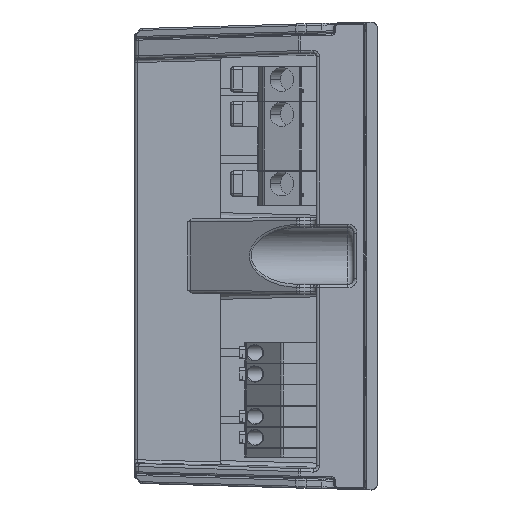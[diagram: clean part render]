
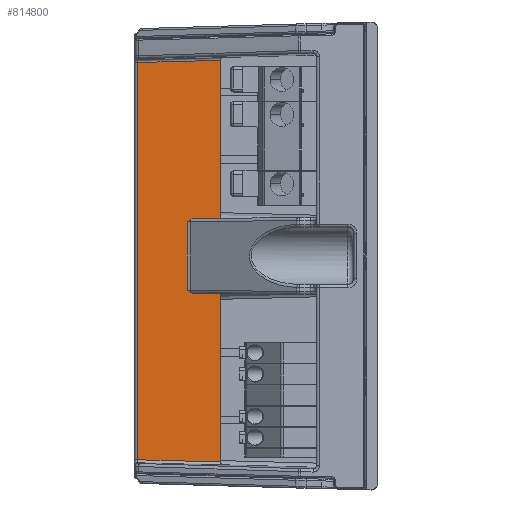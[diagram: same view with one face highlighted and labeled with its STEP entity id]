
A CAD part, left-side view. The second image highlights one B-rep face of the part: STEP entity #814800.
In plain terms, the highlighted planar face has unit normal (-1, 0, 0).
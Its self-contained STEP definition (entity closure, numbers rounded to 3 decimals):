
#810200=CARTESIAN_POINT('',(15.543,29.995,-31.177));
#810210=VERTEX_POINT('',#810200);
#810240=CARTESIAN_POINT('',(15.543,25.7,
-31.177));
#810250=DIRECTION('',(0.,1.,
0.));
#810260=VECTOR('',#810250,4.295);
#810270=LINE('',#810240,#810260);
#810280=CARTESIAN_POINT('',(15.543,25.7,
-31.177));
#810290=VERTEX_POINT('',#810280);
#810300=EDGE_CURVE('',#810290,#810210,#810270,.T.);
#810750=CARTESIAN_POINT('',(15.543,25.7,
-5.011));
#810760=DIRECTION('',(0.,0.,
-1.));
#810770=VECTOR('',#810760,26.166);
#810780=LINE('',#810750,#810770);
#810790=CARTESIAN_POINT('',(15.543,25.7,
-5.011));
#810800=VERTEX_POINT('',#810790);
#810810=EDGE_CURVE('',#810800,#810290,#810780,.T.);
#811270=CARTESIAN_POINT('',(15.543,39.397,-5.371
));
#811280=DIRECTION('',(0.,-1.,
0.026));
#811290=VECTOR('',#811280,13.701);
#811300=LINE('',#811270,#811290);
#811310=CARTESIAN_POINT('',(15.543,39.397,-5.371
));
#811320=VERTEX_POINT('',#811310);
#811330=EDGE_CURVE('',#811320,#810800,#811300,.T.);
#813750=CARTESIAN_POINT('',(15.543,39.397,-71.035
));
#813760=VERTEX_POINT('',#813750);
#813860=CARTESIAN_POINT('',(15.543,39.397,-5.371
));
#813870=DIRECTION('',(0.,0.,-1.));
#813880=VECTOR('',#813870,65.663);
#813890=LINE('',#813860,#813880);
#813900=EDGE_CURVE('',#811320,#813760,#813890,.T.);
#813950=CARTESIAN_POINT('',(15.543,39.897,-2.053));
#813960=DIRECTION('',(1.,0.,0.));
#813970=DIRECTION('',(0.,0.,-1.));
#813980=AXIS2_PLACEMENT_3D('',#813950,#813960,#813970);
#813990=PLANE('',#813980);
#814000=CARTESIAN_POINT('',(15.543,25.7,
-71.395));
#814010=DIRECTION('',(0.,1.,
0.026));
#814020=VECTOR('',#814010,13.701);
#814030=LINE('',#814000,#814020);
#814040=CARTESIAN_POINT('',(15.543,25.7,
-71.395));
#814050=VERTEX_POINT('',#814040);
#814060=EDGE_CURVE('',#814050,#813760,#814030,.T.);
#814070=ORIENTED_EDGE('',*,*,#814060,.F.);
#814080=ORIENTED_EDGE('',*,*,#813900,.T.);
#814090=ORIENTED_EDGE('',*,*,#811330,.F.);
#814100=ORIENTED_EDGE('',*,*,#810810,.F.);
#814110=ORIENTED_EDGE('',*,*,#810300,.F.);
#814120=CARTESIAN_POINT('',(15.543,29.995,-31.177));
#814130=CARTESIAN_POINT('',(15.543,30.072,-31.177));
#814140=CARTESIAN_POINT('',(15.543,30.219,
-31.186));
#814150=CARTESIAN_POINT('',(15.543,30.421,
-31.226));
#814160=CARTESIAN_POINT('',(15.543,30.543,-31.27
));
#814170=CARTESIAN_POINT('',(15.543,30.601,-31.296
));
#814180=B_SPLINE_CURVE_WITH_KNOTS('',3,(#814120,#814130,#814140,#814150,
#814160,#814170),.UNSPECIFIED.,.F.,.F.,(4,1,1,4),(0.,0.333,
0.667,1.),.UNSPECIFIED.);
#814190=CARTESIAN_POINT('',(15.543,30.601,
-31.296));
#814200=VERTEX_POINT('',#814190);
#814210=EDGE_CURVE('',#810210,#814200,#814180,.T.);
#814220=ORIENTED_EDGE('',*,*,#814210,.F.);
#814230=CARTESIAN_POINT('',(15.543,31.232,-31.686)
);
#814240=CARTESIAN_POINT('',(15.543,31.16,
-31.635));
#814250=CARTESIAN_POINT('',(15.543,31.019,
-31.535));
#814260=CARTESIAN_POINT('',(15.543,30.809,
-31.4));
#814270=CARTESIAN_POINT('',(15.543,30.671,
-31.327));
#814280=CARTESIAN_POINT('',(15.543,30.601,-31.296
));
#814290=B_SPLINE_CURVE_WITH_KNOTS('',3,(#814230,#814240,#814250,#814260,
#814270,#814280),.UNSPECIFIED.,.F.,.F.,(4,1,1,4),(0.,0.333,
0.667,1.),.UNSPECIFIED.);
#814300=CARTESIAN_POINT('',(15.543,31.232,-31.686)
);
#814310=VERTEX_POINT('',#814300);
#814320=EDGE_CURVE('',#814310,#814200,#814290,.T.);
#814330=ORIENTED_EDGE('',*,*,#814320,.T.);
#814340=CARTESIAN_POINT('',(15.543,31.232,
-43.021));
#814350=DIRECTION('',(0.,0.,
1.));
#814360=VECTOR('',#814350,11.335);
#814370=LINE('',#814340,#814360);
#814380=CARTESIAN_POINT('',(15.543,31.232,
-43.021));
#814390=VERTEX_POINT('',#814380);
#814400=EDGE_CURVE('',#814390,#814310,#814370,.T.);
#814410=ORIENTED_EDGE('',*,*,#814400,.T.);
#814420=CARTESIAN_POINT('',(15.543,31.232,
-43.021));
#814430=CARTESIAN_POINT('',(15.543,31.158,
-43.072));
#814440=CARTESIAN_POINT('',(15.543,31.016,
-43.174));
#814450=CARTESIAN_POINT('',(15.543,30.806,
-43.308));
#814460=CARTESIAN_POINT('',(15.543,30.669,-43.38)
);
#814470=CARTESIAN_POINT('',(15.543,30.601,-43.411
));
#814480=B_SPLINE_CURVE_WITH_KNOTS('',3,(#814420,#814430,#814440,#814450,
#814460,#814470),.UNSPECIFIED.,.F.,.F.,(4,1,1,4),(0.,0.333,
0.667,1.),.UNSPECIFIED.);
#814490=CARTESIAN_POINT('',(15.543,30.601,-43.411
));
#814500=VERTEX_POINT('',#814490);
#814510=EDGE_CURVE('',#814390,#814500,#814480,.T.);
#814520=ORIENTED_EDGE('',*,*,#814510,.F.);
#814530=CARTESIAN_POINT('',(15.543,30.601,-43.411
));
#814540=CARTESIAN_POINT('',(15.543,30.543,-43.437
));
#814550=CARTESIAN_POINT('',(15.543,30.421,
-43.481));
#814560=CARTESIAN_POINT('',(15.543,30.219,
-43.521));
#814570=CARTESIAN_POINT('',(15.543,30.071,-43.529));
#814580=CARTESIAN_POINT('',(15.543,29.995,-43.529));
#814590=B_SPLINE_CURVE_WITH_KNOTS('',3,(#814530,#814540,#814550,#814560,
#814570,#814580),.UNSPECIFIED.,.F.,.F.,(4,1,1,4),(0.,0.333,
0.667,1.),.UNSPECIFIED.);
#814600=CARTESIAN_POINT('',(15.543,29.995,-43.529));
#814610=VERTEX_POINT('',#814600);
#814620=EDGE_CURVE('',#814500,#814610,#814590,.T.);
#814630=ORIENTED_EDGE('',*,*,#814620,.F.);
#814640=CARTESIAN_POINT('',(15.543,29.995,-43.529));
#814650=DIRECTION('',(0.,-1.,
0.));
#814660=VECTOR('',#814650,4.295);
#814670=LINE('',#814640,#814660);
#814680=CARTESIAN_POINT('',(15.543,25.7,
-43.529));
#814690=VERTEX_POINT('',#814680);
#814700=EDGE_CURVE('',#814610,#814690,#814670,.T.);
#814710=ORIENTED_EDGE('',*,*,#814700,.F.);
#814720=CARTESIAN_POINT('',(15.543,25.7,
-43.529));
#814730=DIRECTION('',(0.,0.,
-1.));
#814740=VECTOR('',#814730,27.866);
#814750=LINE('',#814720,#814740);
#814760=EDGE_CURVE('',#814690,#814050,#814750,.T.);
#814770=ORIENTED_EDGE('',*,*,#814760,.F.);
#814780=EDGE_LOOP('',(#814770,#814710,#814630,#814520,#814410,#814330,
#814220,#814110,#814100,#814090,#814080,#814070));
#814790=FACE_OUTER_BOUND('',#814780,.T.);
#814800=ADVANCED_FACE('',(#814790),#813990,.F.);
